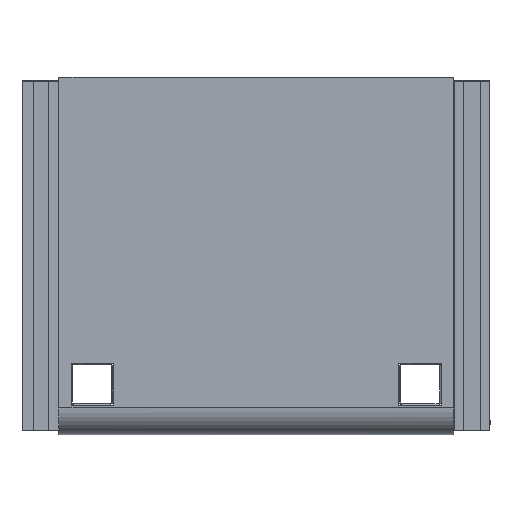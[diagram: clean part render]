
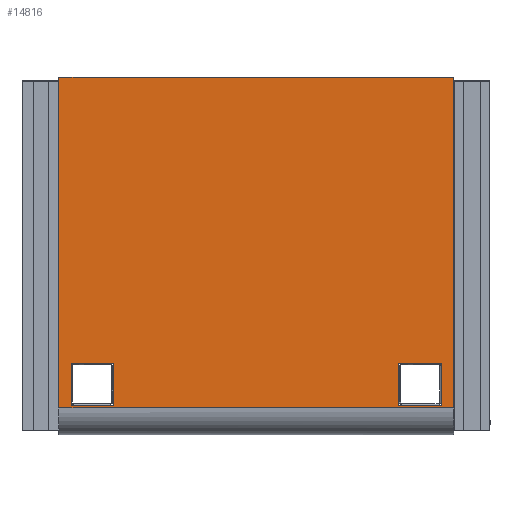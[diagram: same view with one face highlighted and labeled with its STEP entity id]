
A CAD part, front view. The second image highlights one B-rep face of the part: STEP entity #14816.
In plain terms, the highlighted planar face has unit normal (0, -1, 0) as drawn and (0, 0, -1) by its records, which use the part's own axes.
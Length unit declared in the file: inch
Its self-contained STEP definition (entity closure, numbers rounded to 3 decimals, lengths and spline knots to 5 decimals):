
#14409=CARTESIAN_POINT('Vertex',(15.075,5.72153,0.)) ;
#14412=CARTESIAN_POINT('Line Origine',(30.26124,5.72153,0.)) ;
#14416=CARTESIAN_POINT('Vertex',(-15.075,5.72153,0.)) ;
#14718=CARTESIAN_POINT('Axis2P3D Location',(0.,0.,0.)) ;
#14723=CARTESIAN_POINT('Line Origine',(15.075,-6.90323,0.)) ;
#14727=CARTESIAN_POINT('Vertex',(15.075,-19.528,0.)) ;
#14730=CARTESIAN_POINT('Line Origine',(0.,-19.528,0.)) ;
#14734=CARTESIAN_POINT('Vertex',(-15.075,-19.528,0.)) ;
#14737=CARTESIAN_POINT('Line Origine',(-15.075,-6.90323,0.)) ;
#14748=CARTESIAN_POINT('Line Origine',(-10.895,3.9212,0.)) ;
#14752=CARTESIAN_POINT('Vertex',(-10.895,2.2962,0.)) ;
#14754=CARTESIAN_POINT('Vertex',(-10.895,5.5462,0.)) ;
#14757=CARTESIAN_POINT('Line Origine',(-12.52,5.5462,0.)) ;
#14761=CARTESIAN_POINT('Vertex',(-14.145,5.5462,0.)) ;
#14764=CARTESIAN_POINT('Line Origine',(-14.145,3.9212,0.)) ;
#14768=CARTESIAN_POINT('Vertex',(-14.145,2.2962,0.)) ;
#14771=CARTESIAN_POINT('Line Origine',(-12.52,2.2962,0.)) ;
#14782=CARTESIAN_POINT('Line Origine',(14.145,3.9212,0.)) ;
#14786=CARTESIAN_POINT('Vertex',(14.145,2.2962,0.)) ;
#14788=CARTESIAN_POINT('Vertex',(14.145,5.5462,0.)) ;
#14791=CARTESIAN_POINT('Line Origine',(12.52,5.5462,0.)) ;
#14795=CARTESIAN_POINT('Vertex',(10.895,5.5462,0.)) ;
#14798=CARTESIAN_POINT('Line Origine',(10.895,3.9212,0.)) ;
#14802=CARTESIAN_POINT('Vertex',(10.895,2.2962,0.)) ;
#14805=CARTESIAN_POINT('Line Origine',(12.52,2.2962,0.)) ;
#14413=DIRECTION('Vector Direction',(-1.,0.,0.)) ;
#14719=DIRECTION('Axis2P3D Direction',(0.,-0.,1.)) ;
#14720=DIRECTION('Axis2P3D XDirection',(1.,0.,-0.)) ;
#14724=DIRECTION('Vector Direction',(0.,1.,0.)) ;
#14731=DIRECTION('Vector Direction',(-1.,0.,0.)) ;
#14738=DIRECTION('Vector Direction',(0.,1.,0.)) ;
#14749=DIRECTION('Vector Direction',(0.,1.,0.)) ;
#14758=DIRECTION('Vector Direction',(-1.,0.,0.)) ;
#14765=DIRECTION('Vector Direction',(0.,-1.,0.)) ;
#14772=DIRECTION('Vector Direction',(1.,0.,0.)) ;
#14783=DIRECTION('Vector Direction',(0.,1.,0.)) ;
#14792=DIRECTION('Vector Direction',(-1.,0.,0.)) ;
#14799=DIRECTION('Vector Direction',(0.,-1.,0.)) ;
#14806=DIRECTION('Vector Direction',(1.,0.,0.)) ;
#14721=AXIS2_PLACEMENT_3D('Plane Axis2P3D',#14718,#14719,#14720) ;
#14743=ORIENTED_EDGE('',*,*,#14418,.F.) ;
#14744=ORIENTED_EDGE('',*,*,#14729,.F.) ;
#14745=ORIENTED_EDGE('',*,*,#14736,.T.) ;
#14746=ORIENTED_EDGE('',*,*,#14741,.T.) ;
#14777=ORIENTED_EDGE('',*,*,#14756,.T.) ;
#14778=ORIENTED_EDGE('',*,*,#14763,.T.) ;
#14779=ORIENTED_EDGE('',*,*,#14770,.T.) ;
#14780=ORIENTED_EDGE('',*,*,#14775,.T.) ;
#14811=ORIENTED_EDGE('',*,*,#14790,.T.) ;
#14812=ORIENTED_EDGE('',*,*,#14797,.T.) ;
#14813=ORIENTED_EDGE('',*,*,#14804,.T.) ;
#14814=ORIENTED_EDGE('',*,*,#14809,.T.) ;
#14781=FACE_BOUND('',#14776,.T.) ;
#14815=FACE_BOUND('',#14810,.T.) ;
#14414=VECTOR('Line Direction',#14413,0.03937) ;
#14725=VECTOR('Line Direction',#14724,0.03937) ;
#14732=VECTOR('Line Direction',#14731,0.03937) ;
#14739=VECTOR('Line Direction',#14738,0.03937) ;
#14750=VECTOR('Line Direction',#14749,0.03937) ;
#14759=VECTOR('Line Direction',#14758,0.03937) ;
#14766=VECTOR('Line Direction',#14765,0.03937) ;
#14773=VECTOR('Line Direction',#14772,0.03937) ;
#14784=VECTOR('Line Direction',#14783,0.03937) ;
#14793=VECTOR('Line Direction',#14792,0.03937) ;
#14800=VECTOR('Line Direction',#14799,0.03937) ;
#14807=VECTOR('Line Direction',#14806,0.03937) ;
#14816=ADVANCED_FACE('Sketched Bend1',(#14747,#14781,#14815),#14722,.F.) ;
#14418=EDGE_CURVE('',#14410,#14417,#14415,.T.) ;
#14729=EDGE_CURVE('',#14728,#14410,#14726,.T.) ;
#14736=EDGE_CURVE('',#14728,#14735,#14733,.T.) ;
#14741=EDGE_CURVE('',#14735,#14417,#14740,.T.) ;
#14756=EDGE_CURVE('',#14753,#14755,#14751,.T.) ;
#14763=EDGE_CURVE('',#14755,#14762,#14760,.T.) ;
#14770=EDGE_CURVE('',#14762,#14769,#14767,.T.) ;
#14775=EDGE_CURVE('',#14769,#14753,#14774,.T.) ;
#14790=EDGE_CURVE('',#14787,#14789,#14785,.T.) ;
#14797=EDGE_CURVE('',#14789,#14796,#14794,.T.) ;
#14804=EDGE_CURVE('',#14796,#14803,#14801,.T.) ;
#14809=EDGE_CURVE('',#14803,#14787,#14808,.T.) ;
#14742=EDGE_LOOP('',(#14743,#14744,#14745,#14746)) ;
#14776=EDGE_LOOP('',(#14777,#14778,#14779,#14780)) ;
#14810=EDGE_LOOP('',(#14811,#14812,#14813,#14814)) ;
#14747=FACE_OUTER_BOUND('',#14742,.T.) ;
#14415=LINE('Line',#14412,#14414) ;
#14726=LINE('Line',#14723,#14725) ;
#14733=LINE('Line',#14730,#14732) ;
#14740=LINE('Line',#14737,#14739) ;
#14751=LINE('Line',#14748,#14750) ;
#14760=LINE('Line',#14757,#14759) ;
#14767=LINE('Line',#14764,#14766) ;
#14774=LINE('Line',#14771,#14773) ;
#14785=LINE('Line',#14782,#14784) ;
#14794=LINE('Line',#14791,#14793) ;
#14801=LINE('Line',#14798,#14800) ;
#14808=LINE('Line',#14805,#14807) ;
#14722=PLANE('',#14721) ;
#14410=VERTEX_POINT('',#14409) ;
#14417=VERTEX_POINT('',#14416) ;
#14728=VERTEX_POINT('',#14727) ;
#14735=VERTEX_POINT('',#14734) ;
#14753=VERTEX_POINT('',#14752) ;
#14755=VERTEX_POINT('',#14754) ;
#14762=VERTEX_POINT('',#14761) ;
#14769=VERTEX_POINT('',#14768) ;
#14787=VERTEX_POINT('',#14786) ;
#14789=VERTEX_POINT('',#14788) ;
#14796=VERTEX_POINT('',#14795) ;
#14803=VERTEX_POINT('',#14802) ;
